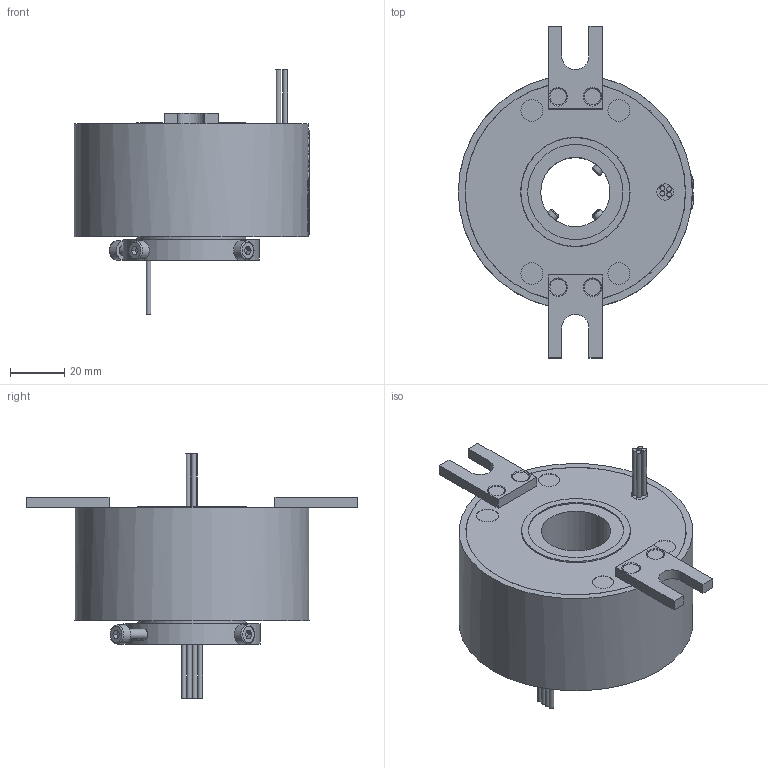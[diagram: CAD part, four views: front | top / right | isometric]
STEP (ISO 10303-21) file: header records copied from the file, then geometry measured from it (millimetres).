
FILE_DESCRIPTION(/* description */ (''),/* implementation_level */ '2;1');
FILE_NAME(/* name */ 'YDS2586-0410-3D模型.stp',/* time_stamp */ '2025-09-04T08:33:49+08:00',/* author */ (''),/* organization */ (''),/* preprocessor_version */ 'ST-DEVELOPER v16.7',/* originating_system */ 'SIEMENS PLM Software NX 12.0',/* authorisation */ '');
FILE_SCHEMA (('AUTOMOTIVE_DESIGN { 1 0 10303 214 3 1 1 1 }'));
Length unit declared in the file: millimetre
Products named in the file (1): Admi3138F06C1f4q
Bounding box: 86.5 x 122 x 89.8 mm (x, y, z)
Volume: 236498.7 mm3; surface area: 35549.2 mm2
Topology: 1 solids, 6 shells, 917 faces, 2436 edges, 1618 vertices
Faces by surface type: extrusion 457, plane 335, cylinder 76, bspline 33, cone 12, torus 4
Full cylindrical faces by diameter (mm): 1.8 x8, 3 x4, 3.5 x4, 4 x8, 6 x5, 7 x4, 8 x4, 25.4 x1, 35 x1, 40 x2, 40.2 x1, 42.8 x1, 43 x1, 43.2 x1, 50 x1, 80.9 x2, 81 x2, 86 x1
Entity records: 36268 total; most frequent: CARTESIAN_POINT 17138, ORIENTED_EDGE 4694, EDGE_CURVE 2347, B_SPLINE_CURVE_WITH_KNOTS 2225, DIRECTION 2179, VERTEX_POINT 1597, EDGE_LOOP 1084, ADVANCED_FACE 916
